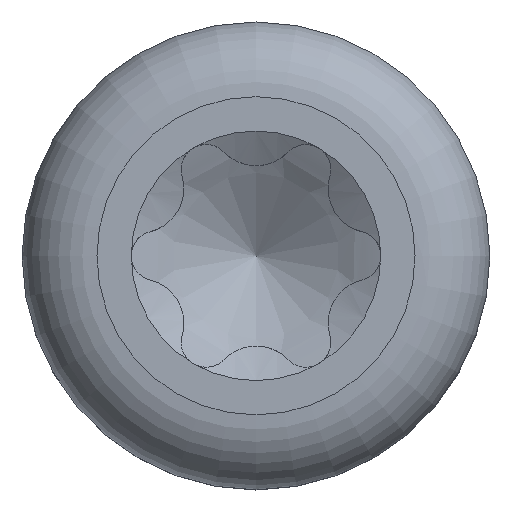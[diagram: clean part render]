
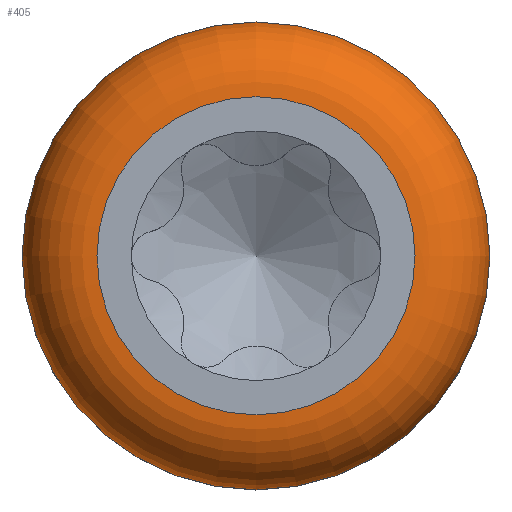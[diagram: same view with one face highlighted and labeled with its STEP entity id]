
A CAD part, top view. The second image highlights one B-rep face of the part: STEP entity #405.
In plain terms, the highlighted toroidal (fillet/blend) face has major radius 3.57 mm and minor radius 1.68 mm.
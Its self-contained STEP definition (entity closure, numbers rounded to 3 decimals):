
#365=TOROIDAL_SURFACE('',#2095,3.57,1.68);
#376=FACE_BOUND('',#687,.T.);
#377=FACE_BOUND('',#688,.T.);
#405=ADVANCED_FACE('',(#376,#377),#365,.T.);
#687=EDGE_LOOP('',(#909));
#688=EDGE_LOOP('',(#910));
#829=CIRCLE('',#2092,5.25);
#830=CIRCLE('',#2094,3.57);
#909=ORIENTED_EDGE('',*,*,#1674,.F.);
#910=ORIENTED_EDGE('',*,*,#1673,.T.);
#1495=VERTEX_POINT('',#4793);
#1496=VERTEX_POINT('',#4796);
#1673=EDGE_CURVE('',#1495,#1495,#829,.T.);
#1674=EDGE_CURVE('',#1496,#1496,#830,.T.);
#2092=AXIS2_PLACEMENT_3D('',#4792,#2160,#2161);
#2094=AXIS2_PLACEMENT_3D('',#4795,#2164,#2165);
#2095=AXIS2_PLACEMENT_3D('',#4797,#2166,#2167);
#2160=DIRECTION('',(0.,0.,1.));
#2161=DIRECTION('',(1.,0.,0.));
#2164=DIRECTION('',(0.,0.,1.));
#2165=DIRECTION('',(1.,0.,0.));
#2166=DIRECTION('',(0.,0.,1.));
#2167=DIRECTION('',(1.,0.,0.));
#4792=CARTESIAN_POINT('',(0.,0.,2.52));
#4793=CARTESIAN_POINT('',(5.25,0.,2.52));
#4795=CARTESIAN_POINT('',(0.,0.,4.2));
#4796=CARTESIAN_POINT('',(3.57,0.,4.2));
#4797=CARTESIAN_POINT('',(0.,0.,2.52));
